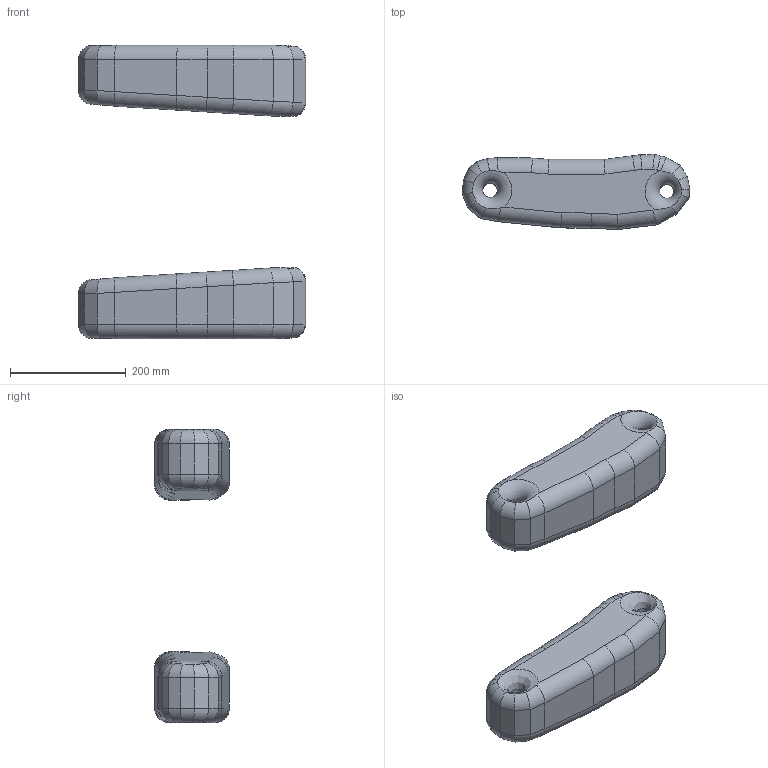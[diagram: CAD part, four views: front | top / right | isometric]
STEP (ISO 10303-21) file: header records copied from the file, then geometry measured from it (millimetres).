
FILE_DESCRIPTION(/* description */ ('Alibre Inc.'),/* implementation_level */ '2;1');
FILE_NAME(/* name */ 'export0',/* time_stamp */ '2007-03-23T19:19:12-07:00',/* author */ (''),/* organization */ (''),/* preprocessor_version */ 'ST-DEVELOPER v10',/* originating_system */ 'Alibre',/* authorisation */ '');
FILE_SCHEMA (('ALIBRE_SCHEMA','CONFIG_CONTROL_DESIGN'));
Length unit declared in the file: centimetre
Products named in the file (1): ID_1
Bounding box: 393.6 x 129.42 x 508 mm (x, y, z)
Volume: 8948327.6 mm3; surface area: 366040.9 mm2
Topology: 2 solids, 2 shells, 172 faces, 472 edges, 296 vertices
Faces by surface type: cylinder 108, plane 56, torus 4, bspline 4
Full cylindrical faces by diameter (mm): 24.256 x2, 25.206 x2
Entity records: 6952 total; most frequent: CARTESIAN_POINT 1815, ORIENTED_EDGE 916, DIRECTION 838, EDGE_CURVE 458, PERSISTANTTOPOLOGYATTRIBUTE 383, AXIS2_PLACEMENT_3D 321, VERTEX_POINT 290, VECTOR 230
